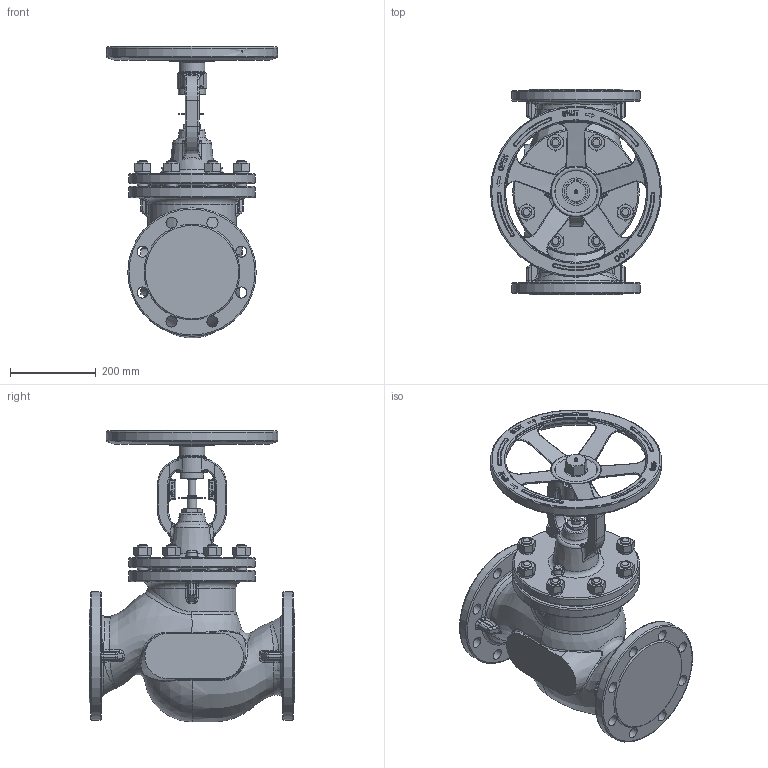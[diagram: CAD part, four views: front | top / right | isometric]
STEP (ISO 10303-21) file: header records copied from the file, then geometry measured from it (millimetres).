
FILE_DESCRIPTION(/* description */ (''),/* implementation_level */ '2;1');
FILE_NAME(/* name */ 'ZV226E_DN150_PN40.stp',/* time_stamp */ '2014-10-01T05:40:44+02:00',/* author */ (''),/* organization */ (''),/* preprocessor_version */ 'ST-DEVELOPER v15',/* originating_system */ 'SIEMENS PLM Software NX 8.5',/* authorisation */ '');
FILE_SCHEMA (('AP203_CONFIGURATION_CONTROLLED_3D_DESIGN_OF_MECHANICAL_PARTS_AND_ASSEMBLIES_MIM_LF { 1 0 10303 403 2 1 2}'));
Products named in the file (1): adam0D0CD2F3qxgp
Bounding box: 400 x 480 x 682.2 mm (x, y, z)
Volume: 27317764.2 mm3; surface area: 1280366.1 mm2
Topology: 1 solids, 1 shells, 1325 faces, 3278 edges, 1946 vertices
Faces by surface type: plane 422, cylinder 262, bspline 235, torus 179, cone 170, sphere 34, extrusion 23
Full cylindrical faces by diameter (mm): 4 x5, 7 x1, 10 x4, 18 x1, 19 x1, 22 x2, 24 x24, 26 x16, 33.7 x1, 50 x1, 55 x1, 55.2 x1, 60 x1, 62 x2, 70 x1, 192 x1, 222 x1, 296 x2, 300 x2, 330 x1, 335 x1, 395 x1, 400 x1
Entity records: 64773 total; most frequent: CARTESIAN_POINT 36635, ORIENTED_EDGE 6064, DIRECTION 5354, EDGE_CURVE 3032, AXIS2_PLACEMENT_3D 2261, VERTEX_POINT 1877, EDGE_LOOP 1575, ADVANCED_FACE 1325
